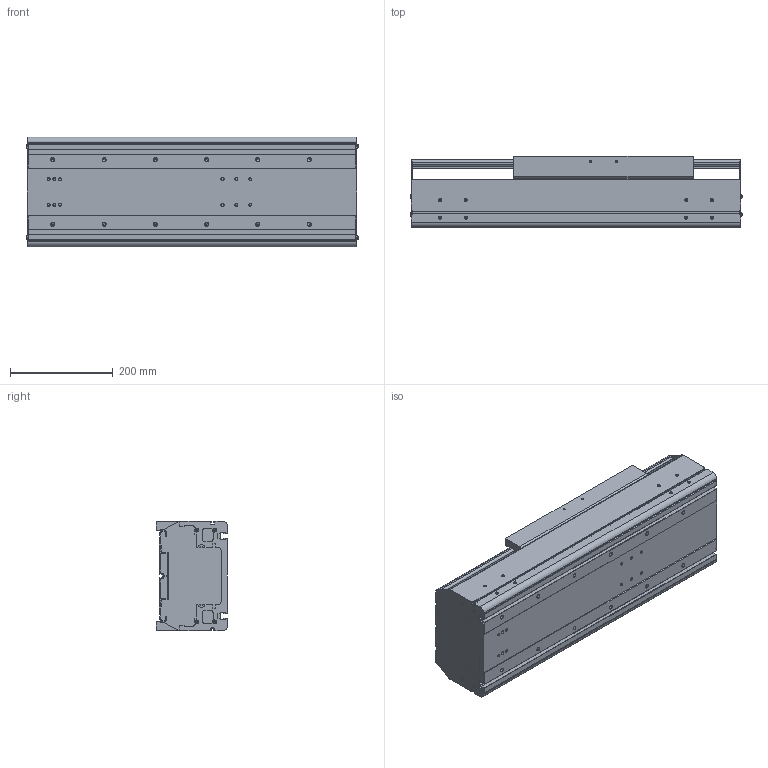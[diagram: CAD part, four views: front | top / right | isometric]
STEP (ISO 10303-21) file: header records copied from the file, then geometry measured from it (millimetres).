
FILE_DESCRIPTION((''),'2;1');
FILE_NAME('BE60G-ST-L_B-15_IGS_PRT','2017-06-18T',(' '),(''),'PRO/ENGINEER BY PARAMETRIC TECHNOLOGY CORPORATION, 2015030','PRO/ENGINEER BY PARAMETRIC TECHNOLOGY CORPORATION, 2015030','');
FILE_SCHEMA(('CONFIG_CONTROL_DESIGN'));
Length unit declared in the file: millimetre
Products named in the file (1): BE60G-ST-L_B-15_IGS_PRT
Bounding box: 647.4 x 140 x 214 mm (x, y, z)
Volume: 6239748.5 mm3; surface area: 1599459.2 mm2
Topology: 2 solids, 104 shells, 1354 faces, 3718 edges, 2430 vertices
Faces by surface type: cylinder 648, plane 574, cone 84, sphere 24, torus 24
Entity records: 44379 total; most frequent: CARTESIAN_POINT 9491, DIRECTION 7420, ORIENTED_EDGE 6876, EDGE_CURVE 3638, AXIS2_PLACEMENT_3D 2723, VERTEX_POINT 2430, VECTOR 1974, LINE 1974
